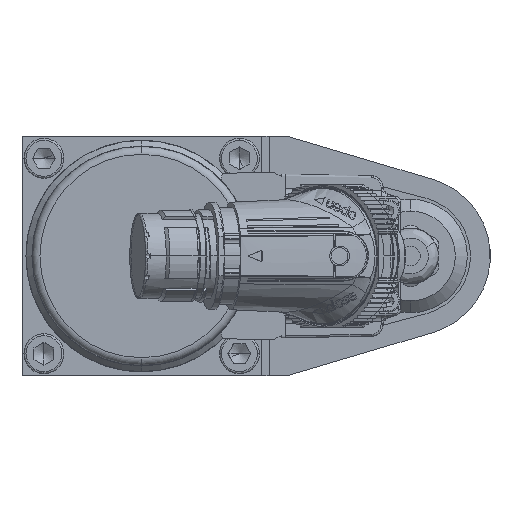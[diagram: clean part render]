
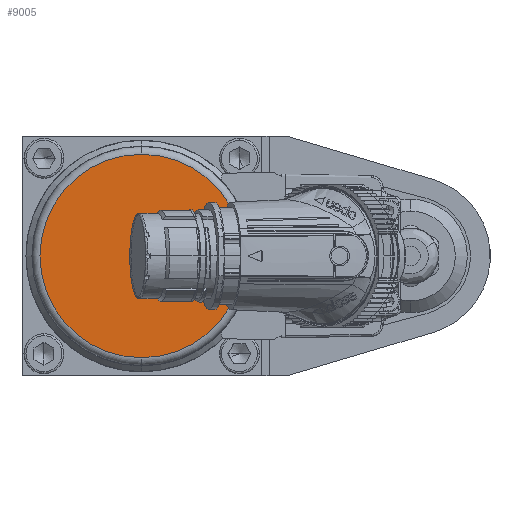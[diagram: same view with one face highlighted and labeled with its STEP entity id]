
A CAD part, left-side view. The second image highlights one B-rep face of the part: STEP entity #9005.
In plain terms, the highlighted planar face has unit normal (-1, 0, 0).
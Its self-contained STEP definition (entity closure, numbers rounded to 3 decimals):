
#1436 = CIRCLE ( 'NONE', #15399, 25.5 ) ;
#1511 = DIRECTION ( 'NONE',  ( -1., 0., 0. ) ) ;
#3992 = VERTEX_POINT ( 'NONE', #90541 ) ;
#6609 = VERTEX_POINT ( 'NONE', #32855 ) ;
#9005 = ADVANCED_FACE ( 'NONE', ( #84550 ), #80722, .T. ) ;
#15399 = AXIS2_PLACEMENT_3D ( 'NONE', #16997, #78647, #25929 ) ;
#16997 = CARTESIAN_POINT ( 'NONE',  ( -313.3, 0., 0. ) ) ;
#21052 = ORIENTED_EDGE ( 'NONE', *, *, #86207, .T. ) ;
#25929 = DIRECTION ( 'NONE',  ( 0., 0., 1. ) ) ;
#27616 = AXIS2_PLACEMENT_3D ( 'NONE', #100847, #48182, #109712 ) ;
#32855 = CARTESIAN_POINT ( 'NONE',  ( -313.3, 0., -25.5 ) ) ;
#47165 = EDGE_LOOP ( 'NONE', ( #21052, #111886 ) ) ;
#48182 = DIRECTION ( 'NONE',  ( -1., 0., 0. ) ) ;
#50133 = EDGE_CURVE ( 'NONE', #6609, #3992, #1436, .T. ) ;
#62355 = AXIS2_PLACEMENT_3D ( 'NONE', #71888, #1511, #89571 ) ;
#71888 = CARTESIAN_POINT ( 'NONE',  ( -313.3, 0., 0. ) ) ;
#78647 = DIRECTION ( 'NONE',  ( -1., 0., 0. ) ) ;
#80722 = PLANE ( 'NONE',  #62355 ) ;
#84550 = FACE_OUTER_BOUND ( 'NONE', #47165, .T. ) ;
#86207 = EDGE_CURVE ( 'NONE', #3992, #6609, #96522, .T. ) ;
#89571 = DIRECTION ( 'NONE',  ( 0., 0., 1. ) ) ;
#90541 = CARTESIAN_POINT ( 'NONE',  ( -313.3, 0., 25.5 ) ) ;
#96522 = CIRCLE ( 'NONE', #27616, 25.5 ) ;
#100847 = CARTESIAN_POINT ( 'NONE',  ( -313.3, 0., 0. ) ) ;
#109712 = DIRECTION ( 'NONE',  ( 0., 0., 1. ) ) ;
#111886 = ORIENTED_EDGE ( 'NONE', *, *, #50133, .T. ) ;
